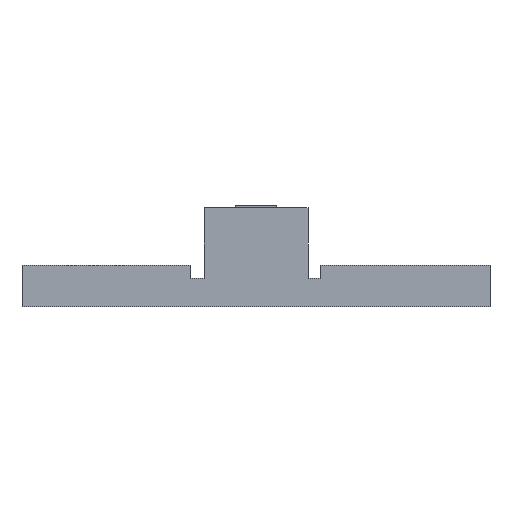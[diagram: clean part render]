
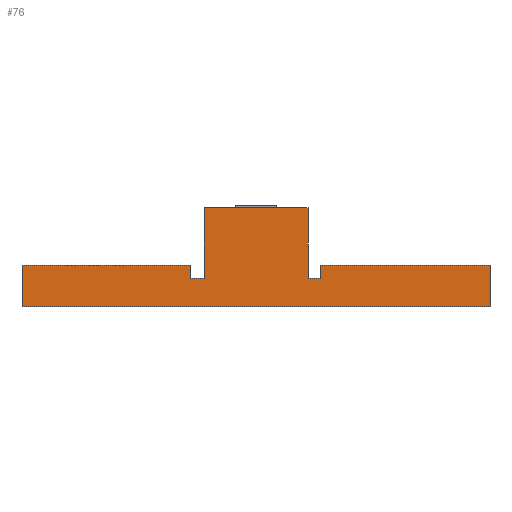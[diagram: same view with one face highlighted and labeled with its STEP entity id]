
A CAD part, front view. The second image highlights one B-rep face of the part: STEP entity #76.
In plain terms, the highlighted planar face has unit normal (0, -1, 0).
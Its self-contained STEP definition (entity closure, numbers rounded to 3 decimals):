
#76=ADVANCED_FACE('',(#324),#326,.T.);
#324=FACE_BOUND('',#325,.T.);
#325=EDGE_LOOP('',(#544,#545,#546,#547,#548,#549,#550,#551,#552,#553,#554,#555,#556,
#557));
#326=PLANE('',#327);
#327=AXIS2_PLACEMENT_3D('',#328,#329,#330);
#328=CARTESIAN_POINT('',(-9.,-3.,0.));
#329=DIRECTION('',(0.,-1.,0.));
#330=DIRECTION('',(1.,0.,0.));
#544=ORIENTED_EDGE('',*,*,#686,.F.);
#545=ORIENTED_EDGE('',*,*,#666,.F.);
#546=ORIENTED_EDGE('',*,*,#687,.F.);
#547=ORIENTED_EDGE('',*,*,#688,.T.);
#548=ORIENTED_EDGE('',*,*,#689,.T.);
#549=ORIENTED_EDGE('',*,*,#690,.F.);
#550=ORIENTED_EDGE('',*,*,#691,.F.);
#551=ORIENTED_EDGE('',*,*,#692,.T.);
#552=ORIENTED_EDGE('',*,*,#693,.T.);
#553=ORIENTED_EDGE('',*,*,#694,.F.);
#554=ORIENTED_EDGE('',*,*,#695,.T.);
#555=ORIENTED_EDGE('',*,*,#696,.T.);
#556=ORIENTED_EDGE('',*,*,#697,.T.);
#557=ORIENTED_EDGE('',*,*,#670,.F.);
#666=EDGE_CURVE('',#741,#743,#744,.T.);
#670=EDGE_CURVE('',#749,#751,#752,.T.);
#686=EDGE_CURVE('',#743,#749,#780,.F.);
#687=EDGE_CURVE('',#781,#741,#782,.T.);
#688=EDGE_CURVE('',#781,#783,#784,.F.);
#689=EDGE_CURVE('',#783,#785,#786,.F.);
#690=EDGE_CURVE('',#787,#785,#788,.T.);
#691=EDGE_CURVE('',#789,#787,#790,.T.);
#692=EDGE_CURVE('',#789,#791,#792,.T.);
#693=EDGE_CURVE('',#791,#793,#794,.T.);
#694=EDGE_CURVE('',#795,#793,#796,.T.);
#695=EDGE_CURVE('',#795,#797,#798,.F.);
#696=EDGE_CURVE('',#797,#799,#800,.F.);
#697=EDGE_CURVE('',#799,#751,#801,.T.);
#741=VERTEX_POINT('',#867);
#743=VERTEX_POINT('',#871);
#744=LINE('',#872,#873);
#749=VERTEX_POINT('',#883);
#751=VERTEX_POINT('',#887);
#752=LINE('',#888,#889);
#780=LINE('',#948,#949);
#781=VERTEX_POINT('',#951);
#782=LINE('',#952,#953);
#783=VERTEX_POINT('',#955);
#784=LINE('',#956,#957);
#785=VERTEX_POINT('',#959);
#786=LINE('',#960,#961);
#787=VERTEX_POINT('',#963);
#788=LINE('',#964,#965);
#789=VERTEX_POINT('',#967);
#790=LINE('',#968,#969);
#791=VERTEX_POINT('',#971);
#792=LINE('',#972,#973);
#793=VERTEX_POINT('',#975);
#794=LINE('',#976,#977);
#795=VERTEX_POINT('',#979);
#796=LINE('',#980,#981);
#797=VERTEX_POINT('',#983);
#798=LINE('',#984,#985);
#799=VERTEX_POINT('',#987);
#800=LINE('',#988,#989);
#801=LINE('',#991,#992);
#867=CARTESIAN_POINT('',(-2.,-3.,3.8));
#871=CARTESIAN_POINT('',(-0.8,-3.,3.8));
#872=CARTESIAN_POINT('',(-2.,-3.,3.8));
#873=VECTOR('',#874,1.);
#874=DIRECTION('',(1.,0.,0.));
#883=CARTESIAN_POINT('',(0.8,-3.,3.8));
#887=CARTESIAN_POINT('',(2.,-3.,3.8));
#888=CARTESIAN_POINT('',(0.8,-3.,3.8));
#889=VECTOR('',#890,1.);
#890=DIRECTION('',(1.,0.,0.));
#948=CARTESIAN_POINT('',(0.8,-3.,3.8));
#949=VECTOR('',#950,1.);
#950=DIRECTION('',(-1.,0.,0.));
#951=CARTESIAN_POINT('',(-2.,-3.,1.1));
#952=CARTESIAN_POINT('',(-2.,-3.,1.1));
#953=VECTOR('',#954,1.);
#954=DIRECTION('',(0.,0.,1.));
#955=CARTESIAN_POINT('',(-2.5,-3.,1.1));
#956=CARTESIAN_POINT('',(-2.5,-3.,1.1));
#957=VECTOR('',#958,1.);
#958=DIRECTION('',(1.,0.,0.));
#959=CARTESIAN_POINT('',(-2.5,-3.,1.6));
#960=CARTESIAN_POINT('',(-2.5,-3.,1.6));
#961=VECTOR('',#962,1.);
#962=DIRECTION('',(0.,0.,-1.));
#963=CARTESIAN_POINT('',(-9.,-3.,1.6));
#964=CARTESIAN_POINT('',(-9.,-3.,1.6));
#965=VECTOR('',#966,1.);
#966=DIRECTION('',(1.,0.,0.));
#967=CARTESIAN_POINT('',(-9.,-3.,0.));
#968=CARTESIAN_POINT('',(-9.,-3.,0.));
#969=VECTOR('',#970,1.);
#970=DIRECTION('',(0.,0.,1.));
#971=CARTESIAN_POINT('',(9.,-3.,0.));
#972=CARTESIAN_POINT('',(-9.,-3.,0.));
#973=VECTOR('',#974,1.);
#974=DIRECTION('',(1.,0.,0.));
#975=CARTESIAN_POINT('',(9.,-3.,1.6));
#976=CARTESIAN_POINT('',(9.,-3.,0.));
#977=VECTOR('',#978,1.);
#978=DIRECTION('',(0.,0.,1.));
#979=CARTESIAN_POINT('',(2.5,-3.,1.6));
#980=CARTESIAN_POINT('',(2.5,-3.,1.6));
#981=VECTOR('',#982,1.);
#982=DIRECTION('',(1.,0.,0.));
#983=CARTESIAN_POINT('',(2.5,-3.,1.1));
#984=CARTESIAN_POINT('',(2.5,-3.,1.1));
#985=VECTOR('',#986,1.);
#986=DIRECTION('',(0.,0.,1.));
#987=CARTESIAN_POINT('',(2.,-3.,1.1));
#988=CARTESIAN_POINT('',(2.,-3.,1.1));
#989=VECTOR('',#990,1.);
#990=DIRECTION('',(1.,0.,0.));
#991=CARTESIAN_POINT('',(2.,-3.,1.1));
#992=VECTOR('',#993,1.);
#993=DIRECTION('',(0.,0.,1.));
